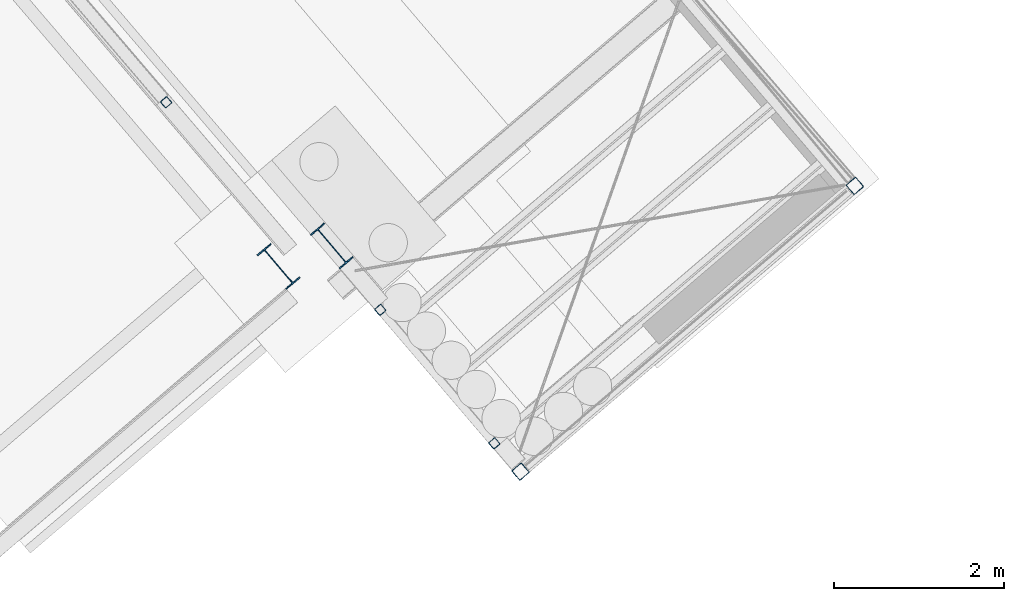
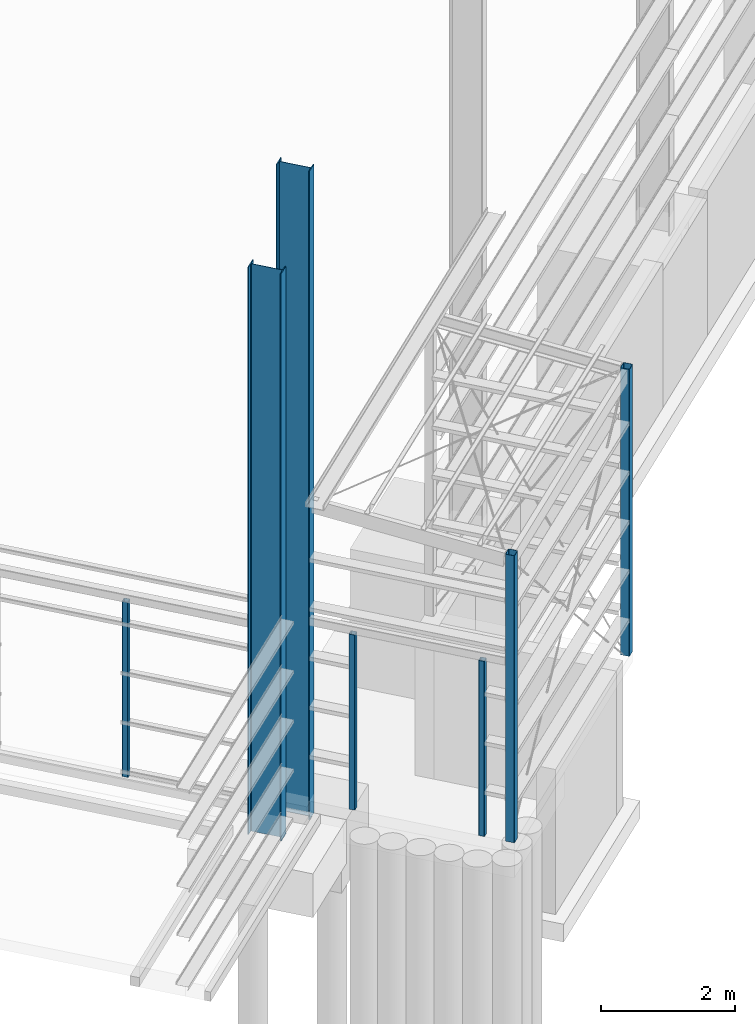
# One storey, part 6 of 41: 7 columns.
"""IFC2X3 building model written with IfcOpenShell, lengths in millimetres."""

from ifc_helpers import new_model, entity, si_unit, converted_unit, derived_unit, direction, frame, frame_2d, origin, origin_2d, place, context, subcontext, project, spatial, polyline, circle_curve, parameter, trimmed, segment, composite_curve, i_section, outline, extrude, source, transform, mapped, material, type_object, type_shapes, element, save


model = new_model("IFC2X3")

# Units and contexts
model_context = context("Model", 3, precision=0.01, world=origin(), true_north=direction((6.123031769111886e-17, 1.0)))
body_context = subcontext(model_context, "Body", "Model", "MODEL_VIEW")
ifc_project = project(units=[si_unit("LENGTHUNIT", "METRE", prefix="MILLI"), si_unit("AREAUNIT", "SQUARE_METRE"), si_unit("VOLUMEUNIT", "CUBIC_METRE"), converted_unit("PLANEANGLEUNIT", "DEGREE", entity("IfcRatioMeasure", 0.017453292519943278), si_unit("PLANEANGLEUNIT", "RADIAN"), dimensions=[0, 0, 0, 0, 0, 0, 0]), si_unit("MASSUNIT", "GRAM", prefix="KILO"), derived_unit("MASSDENSITYUNIT", [(si_unit("MASSUNIT", "GRAM", prefix="KILO"), 1), (si_unit("LENGTHUNIT", "METRE"), -3)]), derived_unit("MOMENTOFINERTIAUNIT", [(si_unit("LENGTHUNIT", "METRE"), 4)]), si_unit("TIMEUNIT", "SECOND"), si_unit("FREQUENCYUNIT", "HERTZ"), si_unit("THERMODYNAMICTEMPERATUREUNIT", "DEGREE_CELSIUS"), derived_unit("THERMALTRANSMITTANCEUNIT", [(si_unit("MASSUNIT", "GRAM", prefix="KILO"), 1), (si_unit("THERMODYNAMICTEMPERATUREUNIT", "KELVIN"), -1), (si_unit("TIMEUNIT", "SECOND"), -3)]), derived_unit("VOLUMETRICFLOWRATEUNIT", [(si_unit("LENGTHUNIT", "METRE"), 3), (si_unit("TIMEUNIT", "SECOND"), -1)]), derived_unit("MASSFLOWRATEUNIT", [(si_unit("MASSUNIT", "GRAM", prefix="KILO"), 1), (si_unit("TIMEUNIT", "SECOND"), -1)]), derived_unit("ROTATIONALFREQUENCYUNIT", [(si_unit("TIMEUNIT", "SECOND"), -1)]), si_unit("ELECTRICCURRENTUNIT", "AMPERE"), si_unit("ELECTRICVOLTAGEUNIT", "VOLT"), si_unit("POWERUNIT", "WATT"), si_unit("FORCEUNIT", "NEWTON", prefix="KILO"), si_unit("ILLUMINANCEUNIT", "LUX"), si_unit("LUMINOUSFLUXUNIT", "LUMEN"), si_unit("LUMINOUSINTENSITYUNIT", "CANDELA"), derived_unit("USERDEFINED", [(si_unit("MASSUNIT", "GRAM", prefix="KILO"), -1), (si_unit("LENGTHUNIT", "METRE"), -2), (si_unit("TIMEUNIT", "SECOND"), 3), (si_unit("LUMINOUSFLUXUNIT", "LUMEN"), 1)]), derived_unit("SOUNDPOWERUNIT", [(si_unit("MASSUNIT", "GRAM", prefix="KILO"), 1), (si_unit("LENGTHUNIT", "METRE"), 2), (si_unit("TIMEUNIT", "SECOND"), -3)]), derived_unit("LINEARVELOCITYUNIT", [(si_unit("LENGTHUNIT", "METRE"), 1), (si_unit("TIMEUNIT", "SECOND"), -1)]), si_unit("PRESSUREUNIT", "PASCAL"), derived_unit("USERDEFINED", [(si_unit("LENGTHUNIT", "METRE"), -2), (si_unit("MASSUNIT", "GRAM", prefix="KILO"), 1), (si_unit("TIMEUNIT", "SECOND"), -2)]), derived_unit("LINEARFORCEUNIT", [(si_unit("MASSUNIT", "GRAM", prefix="KILO"), 1), (si_unit("LENGTHUNIT", "METRE"), 1), (si_unit("TIMEUNIT", "SECOND"), -2), (si_unit("LENGTHUNIT", "METRE"), -1)]), derived_unit("PLANARFORCEUNIT", [(si_unit("MASSUNIT", "GRAM", prefix="KILO"), 1), (si_unit("LENGTHUNIT", "METRE"), 1), (si_unit("TIMEUNIT", "SECOND"), -2), (si_unit("LENGTHUNIT", "METRE"), -2)])], contexts=[model_context])

# Site, building, storey
site_placement = place(None, frame((962.4174930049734, -6014.433753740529, 0.0), z_axis=(0.0, 0.0, 1.0), x_axis=(0.7601792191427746, 0.649713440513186, 0.0)))
site = spatial("IfcSite", under=ifc_project, at=site_placement, Name="Default", CompositionType="ELEMENT")
building_placement = place(site_placement, origin())
building = spatial("IfcBuilding", under=site, at=building_placement, CompositionType="ELEMENT")
storey_placement = place(building_placement, origin())
storey = spatial("IfcBuildingStorey", under=building, at=storey_placement, Name="Datum", CompositionType="ELEMENT", Elevation=0.0)

# Columns
ifc_material = material(Name="Metal - Steel - 300 MPa")
column_type_1 = type_object("IfcColumnType", Name="ADSK_AU_UB-Universal Beams-Column (AS 3679_1):530UB92.4", PredefinedType="COLUMN", material=ifc_material)
shared_shape_1 = source(origin(), body_context, "Body", "SweptSolid", [
    extrude(outline(composite_curve([segment(polyline([(250.89999999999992, -104.49999999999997), (266.5, -104.49999999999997)]), True, "CONTINUOUS"), segment(polyline([(266.5, -104.49999999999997), (266.5, 104.49999999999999)]), True, "CONTINUOUS"), segment(polyline([(266.5, 104.49999999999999), (250.89999999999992, 104.49999999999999)]), True, "CONTINUOUS"), segment(polyline([(250.89999999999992, 104.49999999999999), (250.89999999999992, 19.099999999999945)]), True, "CONTINUOUS"), segment(trimmed(circle_curve(frame_2d((236.89999999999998, 19.099999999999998), x_axis=(1.0, 0.0)), 13.999999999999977), [parameter(269.9999999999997)], [parameter(0.0)], True, "PARAMETER"), False, "CONTINUOUS"), segment(polyline([(236.90000000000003, 5.099999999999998), (-236.89999999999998, 5.099999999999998)]), True, "CONTINUOUS"), segment(trimmed(circle_curve(frame_2d((-236.89999999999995, 19.100000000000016), x_axis=(0.0, -1.0)), 13.999999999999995), [parameter(269.9999999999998)], [parameter(0.0)], True, "PARAMETER"), False, "CONTINUOUS"), segment(polyline([(-250.89999999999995, 19.10000000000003), (-250.89999999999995, 104.49999999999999)]), True, "CONTINUOUS"), segment(polyline([(-250.89999999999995, 104.49999999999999), (-266.49999999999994, 104.49999999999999)]), True, "CONTINUOUS"), segment(polyline([(-266.49999999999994, 104.49999999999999), (-266.49999999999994, -104.49999999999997)]), True, "CONTINUOUS"), segment(polyline([(-266.49999999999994, -104.49999999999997), (-250.89999999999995, -104.49999999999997)]), True, "CONTINUOUS"), segment(polyline([(-250.89999999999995, -104.49999999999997), (-250.89999999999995, -19.099999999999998)]), True, "CONTINUOUS"), segment(trimmed(circle_curve(frame_2d((-236.89999999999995, -19.099999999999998), x_axis=(-1.0, 0.0)), 13.999999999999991), [parameter(269.99999999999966)], [parameter(0.0)], True, "PARAMETER"), False, "CONTINUOUS"), segment(polyline([(-236.89999999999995, -5.100000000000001), (236.89999999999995, -5.100000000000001)]), True, "CONTINUOUS"), segment(trimmed(circle_curve(frame_2d((236.89999999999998, -19.099999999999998), x_axis=(0.0, 1.0)), 14.0), [parameter(269.99999999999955)], [parameter(0.0)], True, "PARAMETER"), False, "CONTINUOUS"), segment(polyline([(250.89999999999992, -19.099999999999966), (250.89999999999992, -104.49999999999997)]), True, "CONTINUOUS")], self_intersect=False)), frame((0.0, 0.0, -370.0), z_axis=(0.0, 0.0, 1.0), x_axis=(0.0, -1.0, 0.0)), (0.0, 0.0, 1.0), 10370.000000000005),
])
type_shapes(column_type_1, [shared_shape_1])
column_1_placement = place(building_placement, frame((153938.96020471, -25622.428082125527, 0.0)))
element("IfcColumn", 1, at=column_1_placement, inside=storey, type_object=column_type_1, material=ifc_material, Name="ADSK_AU_UB-Universal Beams-Column (AS 3679_1):530UB92.4", ObjectType="ADSK_AU_UB-Universal Beams-Column (AS 3679_1):530UB92.4", context=body_context, shape_type="MappedRepresentation", body=[
    mapped(shared_shape_1, transform((0.0, 0.0, 0.0), scale=1.0)),
])
column_type_2 = type_object("IfcColumnType", Name="ADSK_AU_SHS-Square Hollow Sections-Column (AS 1163_C350):100x100x5.0SHS", PredefinedType="COLUMN", material=ifc_material)
shared_shape_2 = source(origin(), body_context, "Body", "SweptSolid", [
    extrude(outline(composite_curve([segment(polyline([(-37.50000000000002, -50.0), (37.50000000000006, -50.0)]), True, "CONTINUOUS"), segment(trimmed(circle_curve(frame_2d((37.49999999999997, -37.50000000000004), x_axis=(-1.0, 0.0)), 12.499999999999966), [parameter(90.00000000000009)], [parameter(180.00000000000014)], True, "PARAMETER"), True, "CONTINUOUS"), segment(polyline([(50.0, -37.500000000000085), (50.0, 37.50000000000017)]), True, "CONTINUOUS"), segment(trimmed(circle_curve(frame_2d((37.49999999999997, 37.50000000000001), x_axis=(-1.0, 0.0)), 12.499999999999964), [parameter(180.00000000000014)], [parameter(269.9999999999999)], True, "PARAMETER"), True, "CONTINUOUS"), segment(polyline([(37.49999999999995, 50.0), (-37.5, 50.0)]), True, "CONTINUOUS"), segment(trimmed(circle_curve(frame_2d((-37.5, 37.5), x_axis=(-1.0, 0.0)), 12.499999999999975), [parameter(269.99999999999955)], [parameter(359.9999999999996)], True, "PARAMETER"), True, "CONTINUOUS"), segment(polyline([(-50.0, 37.5), (-50.0, -37.50000000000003)]), True, "CONTINUOUS"), segment(trimmed(circle_curve(frame_2d((-37.5, -37.50000000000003), x_axis=(-1.0, 0.0)), 12.499999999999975), [parameter(359.99999999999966)], [parameter(89.99999999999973)], True, "PARAMETER"), True, "CONTINUOUS")], self_intersect=False), holes=[composite_curve([segment(trimmed(circle_curve(frame_2d((-37.5, -37.500000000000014), x_axis=(-1.0, 0.0)), 7.500000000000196), [parameter(359.9999999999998)], [parameter(89.99999999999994)], True, "PARAMETER"), False, "CONTINUOUS"), segment(polyline([(-45.0, -37.49999999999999), (-45.0, 37.499999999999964)]), True, "CONTINUOUS"), segment(trimmed(circle_curve(frame_2d((-37.5, 37.49999999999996), x_axis=(-1.0, 0.0)), 7.499999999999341), [parameter(270.00000000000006)], [parameter(359.9999999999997)], True, "PARAMETER"), False, "CONTINUOUS"), segment(polyline([(-37.50000000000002, 45.0), (37.500000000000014, 45.0)]), True, "CONTINUOUS"), segment(trimmed(circle_curve(frame_2d((37.49999999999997, 37.49999999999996), x_axis=(-1.0, 0.0)), 7.499999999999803), [parameter(180.0000000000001)], [parameter(270.00000000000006)], True, "PARAMETER"), False, "CONTINUOUS"), segment(polyline([(45.0, 37.5), (45.0, -37.50000000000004)]), True, "CONTINUOUS"), segment(trimmed(circle_curve(frame_2d((37.49999999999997, -37.500000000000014), x_axis=(-1.0, 0.0)), 7.500000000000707), [parameter(90.00000000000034)], [parameter(180.0000000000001)], True, "PARAMETER"), False, "CONTINUOUS"), segment(polyline([(37.50000000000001, -45.0), (-37.50000000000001, -45.0)]), True, "CONTINUOUS")], self_intersect=False)]), frame((0.0, 0.0, 0.0), z_axis=(0.0, 0.0, 1.0), x_axis=(-1.0, 0.0, 0.0)), (0.0, 0.0, 1.0), 3200.0),
])
type_shapes(column_type_2, [shared_shape_2])
for number, where in (
    (2, (154514.96020470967, -26786.257725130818, 0.0)),
    (3, (154514.96020470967, -28846.25772513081, 0.0)),
):
    element("IfcColumn", number, at=place(building_placement, frame(where)), inside=storey, type_object=column_type_2, material=ifc_material, Name="ADSK_AU_SHS-Square Hollow Sections-Column (AS 1163_C350):100x100x5.0SHS", ObjectType="ADSK_AU_SHS-Square Hollow Sections-Column (AS 1163_C350):100x100x5.0SHS", context=body_context, shape_type="MappedRepresentation", body=[
        mapped(shared_shape_2, transform((0.0, 0.0, 0.0), scale=1.0)),
    ])
column_type_3 = type_object("IfcColumnType", Name="ADSK_AU_SHS-Square Hollow Sections-Column (AS 1163_C350):150x150x5.0SHS", PredefinedType="COLUMN", material=ifc_material)
shared_shape_3 = source(origin(), body_context, "Body", "SweptSolid", [
    extrude(outline(composite_curve([segment(polyline([(-62.50000000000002, -75.0), (62.50000000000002, -75.0)]), True, "CONTINUOUS"), segment(trimmed(circle_curve(frame_2d((62.49999999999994, -62.49999999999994), x_axis=(-1.0, 0.0)), 12.50000000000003), [parameter(90.00000000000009)], [parameter(180.00000000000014)], True, "PARAMETER"), True, "CONTINUOUS"), segment(polyline([(75.0, -62.49999999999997), (75.0, 62.499999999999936)]), True, "CONTINUOUS"), segment(trimmed(circle_curve(frame_2d((62.49999999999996, 62.4999999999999), x_axis=(-1.0, 0.0)), 12.500000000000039), [parameter(180.00000000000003)], [parameter(269.99999999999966)], True, "PARAMETER"), True, "CONTINUOUS"), segment(polyline([(62.499999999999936, 75.0), (-62.50000000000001, 75.0)]), True, "CONTINUOUS"), segment(trimmed(circle_curve(frame_2d((-62.5, 62.49999999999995), x_axis=(-1.0, 0.0)), 12.500000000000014), [parameter(269.99999999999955)], [parameter(359.9999999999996)], True, "PARAMETER"), True, "CONTINUOUS"), segment(polyline([(-75.0, 62.49999999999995), (-75.0, -62.49999999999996)]), True, "CONTINUOUS"), segment(trimmed(circle_curve(frame_2d((-62.500000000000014, -62.49999999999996), x_axis=(-1.0, 0.0)), 12.500000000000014), [parameter(359.9999999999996)], [parameter(89.99999999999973)], True, "PARAMETER"), True, "CONTINUOUS")], self_intersect=False), holes=[composite_curve([segment(trimmed(circle_curve(frame_2d((-62.500000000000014, -62.49999999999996), x_axis=(-1.0, 0.0)), 7.500000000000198), [parameter(359.9999999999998)], [parameter(90.00000000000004)], True, "PARAMETER"), False, "CONTINUOUS"), segment(polyline([(-70.0, -62.49999999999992), (-70.0, 62.500000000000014)]), True, "CONTINUOUS"), segment(trimmed(circle_curve(frame_2d((-62.5, 62.5), x_axis=(-1.0, 0.0)), 7.499999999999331), [parameter(269.99999999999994)], [parameter(359.9999999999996)], True, "PARAMETER"), False, "CONTINUOUS"), segment(polyline([(-62.500000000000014, 70.0), (62.49999999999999, 70.0)]), True, "CONTINUOUS"), segment(trimmed(circle_curve(frame_2d((62.49999999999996, 62.499999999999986), x_axis=(-1.0, 0.0)), 7.499999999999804), [parameter(180.00000000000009)], [parameter(270.00000000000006)], True, "PARAMETER"), False, "CONTINUOUS"), segment(polyline([(70.0, 62.50000000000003), (70.0, -62.49999999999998)]), True, "CONTINUOUS"), segment(trimmed(circle_curve(frame_2d((62.49999999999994, -62.49999999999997), x_axis=(-1.0, 0.0)), 7.500000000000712), [parameter(90.0000000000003)], [parameter(180.00000000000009)], True, "PARAMETER"), False, "CONTINUOUS"), segment(polyline([(62.49999999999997, -70.0), (-62.50000000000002, -70.0)]), True, "CONTINUOUS")], self_intersect=False)]), frame((0.0, 0.0, 0.0), z_axis=(0.0, 0.0, 1.0), x_axis=(-1.0, 0.0, 0.0)), (0.0, 0.0, 1.0), 5245.0),
])
type_shapes(column_type_3, [shared_shape_3])
for number, where in (
    (4, (154533.11020470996, -29298.42808212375, 0.0)),
    (5, (159693.96020470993, -29298.42808212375, 0.0)),
):
    element("IfcColumn", number, at=place(building_placement, frame(where)), inside=storey, type_object=column_type_3, material=ifc_material, Name="ADSK_AU_SHS-Square Hollow Sections-Column (AS 1163_C350):150x150x5.0SHS", ObjectType="ADSK_AU_SHS-Square Hollow Sections-Column (AS 1163_C350):150x150x5.0SHS", context=body_context, shape_type="MappedRepresentation", body=[
        mapped(shared_shape_3, transform((0.0, 0.0, 0.0), scale=1.0)),
    ])
column_type_4 = type_object("IfcColumnType", Name="ADSK_AU_SHS-Square Hollow Sections-Column (AS 1163_C350):100x100x5.0SHS", PredefinedType="COLUMN", material=ifc_material)
shared_shape_4 = source(origin(), body_context, "Body", "SweptSolid", [
    extrude(outline(composite_curve([segment(polyline([(-37.50000000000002, -50.0), (37.50000000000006, -50.0)]), True, "CONTINUOUS"), segment(trimmed(circle_curve(frame_2d((37.49999999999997, -37.50000000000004), x_axis=(-1.0, 0.0)), 12.499999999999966), [parameter(90.00000000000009)], [parameter(180.00000000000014)], True, "PARAMETER"), True, "CONTINUOUS"), segment(polyline([(50.0, -37.500000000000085), (50.0, 37.50000000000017)]), True, "CONTINUOUS"), segment(trimmed(circle_curve(frame_2d((37.49999999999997, 37.50000000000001), x_axis=(-1.0, 0.0)), 12.499999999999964), [parameter(180.00000000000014)], [parameter(269.9999999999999)], True, "PARAMETER"), True, "CONTINUOUS"), segment(polyline([(37.49999999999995, 50.0), (-37.5, 50.0)]), True, "CONTINUOUS"), segment(trimmed(circle_curve(frame_2d((-37.5, 37.5), x_axis=(-1.0, 0.0)), 12.499999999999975), [parameter(269.99999999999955)], [parameter(359.9999999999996)], True, "PARAMETER"), True, "CONTINUOUS"), segment(polyline([(-50.0, 37.5), (-50.0, -37.50000000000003)]), True, "CONTINUOUS"), segment(trimmed(circle_curve(frame_2d((-37.5, -37.50000000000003), x_axis=(-1.0, 0.0)), 12.499999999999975), [parameter(359.99999999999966)], [parameter(89.99999999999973)], True, "PARAMETER"), True, "CONTINUOUS")], self_intersect=False), holes=[composite_curve([segment(trimmed(circle_curve(frame_2d((-37.5, -37.500000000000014), x_axis=(-1.0, 0.0)), 7.500000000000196), [parameter(359.9999999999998)], [parameter(89.99999999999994)], True, "PARAMETER"), False, "CONTINUOUS"), segment(polyline([(-45.0, -37.49999999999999), (-45.0, 37.499999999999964)]), True, "CONTINUOUS"), segment(trimmed(circle_curve(frame_2d((-37.5, 37.49999999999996), x_axis=(-1.0, 0.0)), 7.499999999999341), [parameter(270.00000000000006)], [parameter(359.9999999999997)], True, "PARAMETER"), False, "CONTINUOUS"), segment(polyline([(-37.50000000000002, 45.0), (37.500000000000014, 45.0)]), True, "CONTINUOUS"), segment(trimmed(circle_curve(frame_2d((37.49999999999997, 37.49999999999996), x_axis=(-1.0, 0.0)), 7.499999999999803), [parameter(180.0000000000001)], [parameter(270.00000000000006)], True, "PARAMETER"), False, "CONTINUOUS"), segment(polyline([(45.0, 37.5), (45.0, -37.50000000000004)]), True, "CONTINUOUS"), segment(trimmed(circle_curve(frame_2d((37.49999999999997, -37.500000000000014), x_axis=(-1.0, 0.0)), 7.500000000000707), [parameter(90.00000000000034)], [parameter(180.0000000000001)], True, "PARAMETER"), False, "CONTINUOUS"), segment(polyline([(37.50000000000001, -45.0), (-37.50000000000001, -45.0)]), True, "CONTINUOUS")], self_intersect=False)]), frame((0.0, 0.0, 0.0), z_axis=(0.0, 0.0, 1.0), x_axis=(-1.0, 0.0, 0.0)), (0.0, 0.0, 1.0), 3200.0),
])
type_shapes(column_type_4, [shared_shape_4])
column_2_placement = place(storey_placement, frame((154187.96020470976, -23301.4280821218, 0.0), z_axis=(0.0, 0.0, 1.0), x_axis=(0.0, 1.0, 0.0)))
element("IfcColumn", 6, at=column_2_placement, inside=storey, type_object=column_type_4, material=ifc_material, Name="ADSK_AU_SHS-Square Hollow Sections-Column (AS 1163_C350):100x100x5.0SHS", ObjectType="ADSK_AU_SHS-Square Hollow Sections-Column (AS 1163_C350):100x100x5.0SHS", context=body_context, shape_type="MappedRepresentation", body=[
    mapped(shared_shape_4, transform((0.0, 0.0, 0.0), scale=1.0)),
])
column_type_5 = type_object("IfcColumnType", Name="ADSK_AU_UB-Universal Beams-Column (AS 3679_1):530UB92.4", PredefinedType="COLUMN", material=ifc_material)
column_3_placement = place(storey_placement, frame((154571.26020471, -25846.928082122, 11505.0)))
element("IfcColumn", 7, at=column_3_placement, inside=storey, type_object=column_type_5, material=ifc_material, Name="ADSK_AU_UB-Universal Beams-Column (AS 3679_1):530UB92.4", ObjectType="530UB92.4", context=model_context, shape_type="SweptSolid", body=[
    extrude(i_section(OverallWidth=209.0, OverallDepth=533.0, WebThickness=10.2, FlangeThickness=15.6, FilletRadius=14.0, at=origin_2d()), origin(), (0.0, 0.0, -1.0), 11855.0),
])

save(model, "model.ifc")
